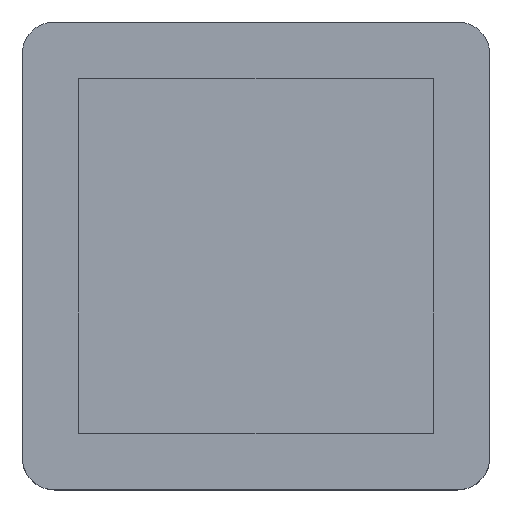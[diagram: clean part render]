
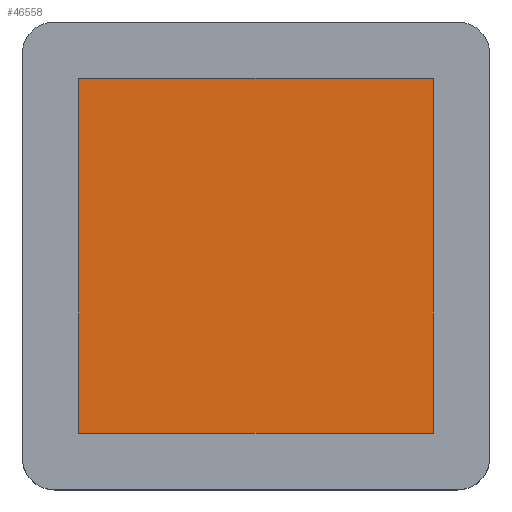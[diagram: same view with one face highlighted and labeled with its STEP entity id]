
A CAD part, top view. The second image highlights one B-rep face of the part: STEP entity #46558.
In plain terms, the highlighted free-form (B-spline) face has degree [1, 1] with [2, 2] control points.
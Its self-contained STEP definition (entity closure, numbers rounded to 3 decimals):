
#46280 = VERTEX_POINT('',#46281);
#46281 = CARTESIAN_POINT('',(-25.,-25.,17.4));
#46287 = B_SPLINE_SURFACE_WITH_KNOTS('',1,1,(
    (#46288,#46289)
    ,(#46290,#46291
    )),.UNSPECIFIED.,.F.,.F.,.F.,(2,2),(2,2),(0.,2.),(-50.,0.),
  .PIECEWISE_BEZIER_KNOTS.);
#46288 = CARTESIAN_POINT('',(-25.,25.,15.4));
#46289 = CARTESIAN_POINT('',(-25.,-25.,15.4));
#46290 = CARTESIAN_POINT('',(-25.,25.,17.4));
#46291 = CARTESIAN_POINT('',(-25.,-25.,17.4));
#46298 = B_SPLINE_SURFACE_WITH_KNOTS('',1,1,(
    (#46299,#46300)
    ,(#46301,#46302
    )),.UNSPECIFIED.,.F.,.F.,.F.,(2,2),(2,2),(0.,2.),(0.,50.),
  .PIECEWISE_BEZIER_KNOTS.);
#46299 = CARTESIAN_POINT('',(-25.,-25.,15.4));
#46300 = CARTESIAN_POINT('',(25.,-25.,15.4));
#46301 = CARTESIAN_POINT('',(-25.,-25.,17.4));
#46302 = CARTESIAN_POINT('',(25.,-25.,17.4));
#46335 = VERTEX_POINT('',#46336);
#46336 = CARTESIAN_POINT('',(-25.,25.,17.4));
#46348 = B_SPLINE_SURFACE_WITH_KNOTS('',1,1,(
    (#46349,#46350)
    ,(#46351,#46352
    )),.UNSPECIFIED.,.F.,.F.,.F.,(2,2),(2,2),(0.,2.),(0.,50.),
  .PIECEWISE_BEZIER_KNOTS.);
#46349 = CARTESIAN_POINT('',(-25.,25.,15.4));
#46350 = CARTESIAN_POINT('',(25.,25.,15.4));
#46351 = CARTESIAN_POINT('',(-25.,25.,17.4));
#46352 = CARTESIAN_POINT('',(25.,25.,17.4));
#46359 = EDGE_CURVE('',#46280,#46335,#46360,.T.);
#46360 = SURFACE_CURVE('',#46361,(#46364,#46370),.PCURVE_S1.);
#46361 = B_SPLINE_CURVE_WITH_KNOTS('',1,(#46362,#46363),.UNSPECIFIED.,
  .F.,.F.,(2,2),(0.,50.),.PIECEWISE_BEZIER_KNOTS.);
#46362 = CARTESIAN_POINT('',(-25.,-25.,17.4));
#46363 = CARTESIAN_POINT('',(-25.,25.,17.4));
#46364 = PCURVE('',#46287,#46365);
#46365 = DEFINITIONAL_REPRESENTATION('',(#46366),#46369);
#46366 = B_SPLINE_CURVE_WITH_KNOTS('',1,(#46367,#46368),.UNSPECIFIED.,
  .F.,.F.,(2,2),(0.,50.),.PIECEWISE_BEZIER_KNOTS.);
#46367 = CARTESIAN_POINT('',(2.,0.));
#46368 = CARTESIAN_POINT('',(2.,-50.));
#46369 = ( GEOMETRIC_REPRESENTATION_CONTEXT(2) 
PARAMETRIC_REPRESENTATION_CONTEXT() REPRESENTATION_CONTEXT('2D SPACE',''
  ) );
#46370 = PCURVE('',#46371,#46376);
#46371 = B_SPLINE_SURFACE_WITH_KNOTS('',1,1,(
    (#46372,#46373)
    ,(#46374,#46375
    )),.UNSPECIFIED.,.F.,.F.,.F.,(2,2),(2,2),(0.,50.),(0.,50.),
  .PIECEWISE_BEZIER_KNOTS.);
#46372 = CARTESIAN_POINT('',(-25.,-25.,17.4));
#46373 = CARTESIAN_POINT('',(-25.,25.,17.4));
#46374 = CARTESIAN_POINT('',(25.,-25.,17.4));
#46375 = CARTESIAN_POINT('',(25.,25.,17.4));
#46376 = DEFINITIONAL_REPRESENTATION('',(#46377),#46380);
#46377 = B_SPLINE_CURVE_WITH_KNOTS('',1,(#46378,#46379),.UNSPECIFIED.,
  .F.,.F.,(2,2),(0.,50.),.PIECEWISE_BEZIER_KNOTS.);
#46378 = CARTESIAN_POINT('',(0.,0.));
#46379 = CARTESIAN_POINT('',(0.,50.));
#46380 = ( GEOMETRIC_REPRESENTATION_CONTEXT(2) 
PARAMETRIC_REPRESENTATION_CONTEXT() REPRESENTATION_CONTEXT('2D SPACE',''
  ) );
#46388 = VERTEX_POINT('',#46389);
#46389 = CARTESIAN_POINT('',(25.,-25.,17.4));
#46395 = B_SPLINE_SURFACE_WITH_KNOTS('',1,1,(
    (#46396,#46397)
    ,(#46398,#46399
    )),.UNSPECIFIED.,.F.,.F.,.F.,(2,2),(2,2),(0.,2.),(-50.,0.),
  .PIECEWISE_BEZIER_KNOTS.);
#46396 = CARTESIAN_POINT('',(25.,25.,15.4));
#46397 = CARTESIAN_POINT('',(25.,-25.,15.4));
#46398 = CARTESIAN_POINT('',(25.,25.,17.4));
#46399 = CARTESIAN_POINT('',(25.,-25.,17.4));
#46433 = VERTEX_POINT('',#46434);
#46434 = CARTESIAN_POINT('',(25.,25.,17.4));
#46452 = EDGE_CURVE('',#46388,#46433,#46453,.T.);
#46453 = SURFACE_CURVE('',#46454,(#46457,#46463),.PCURVE_S1.);
#46454 = B_SPLINE_CURVE_WITH_KNOTS('',1,(#46455,#46456),.UNSPECIFIED.,
  .F.,.F.,(2,2),(0.,50.),.PIECEWISE_BEZIER_KNOTS.);
#46455 = CARTESIAN_POINT('',(25.,-25.,17.4));
#46456 = CARTESIAN_POINT('',(25.,25.,17.4));
#46457 = PCURVE('',#46395,#46458);
#46458 = DEFINITIONAL_REPRESENTATION('',(#46459),#46462);
#46459 = B_SPLINE_CURVE_WITH_KNOTS('',1,(#46460,#46461),.UNSPECIFIED.,
  .F.,.F.,(2,2),(0.,50.),.PIECEWISE_BEZIER_KNOTS.);
#46460 = CARTESIAN_POINT('',(2.,0.));
#46461 = CARTESIAN_POINT('',(2.,-50.));
#46462 = ( GEOMETRIC_REPRESENTATION_CONTEXT(2) 
PARAMETRIC_REPRESENTATION_CONTEXT() REPRESENTATION_CONTEXT('2D SPACE',''
  ) );
#46463 = PCURVE('',#46371,#46464);
#46464 = DEFINITIONAL_REPRESENTATION('',(#46465),#46468);
#46465 = B_SPLINE_CURVE_WITH_KNOTS('',1,(#46466,#46467),.UNSPECIFIED.,
  .F.,.F.,(2,2),(0.,50.),.PIECEWISE_BEZIER_KNOTS.);
#46466 = CARTESIAN_POINT('',(50.,0.));
#46467 = CARTESIAN_POINT('',(50.,50.));
#46468 = ( GEOMETRIC_REPRESENTATION_CONTEXT(2) 
PARAMETRIC_REPRESENTATION_CONTEXT() REPRESENTATION_CONTEXT('2D SPACE',''
  ) );
#46492 = EDGE_CURVE('',#46280,#46388,#46493,.T.);
#46493 = SURFACE_CURVE('',#46494,(#46497,#46503),.PCURVE_S1.);
#46494 = B_SPLINE_CURVE_WITH_KNOTS('',1,(#46495,#46496),.UNSPECIFIED.,
  .F.,.F.,(2,2),(0.,50.),.PIECEWISE_BEZIER_KNOTS.);
#46495 = CARTESIAN_POINT('',(-25.,-25.,17.4));
#46496 = CARTESIAN_POINT('',(25.,-25.,17.4));
#46497 = PCURVE('',#46298,#46498);
#46498 = DEFINITIONAL_REPRESENTATION('',(#46499),#46502);
#46499 = B_SPLINE_CURVE_WITH_KNOTS('',1,(#46500,#46501),.UNSPECIFIED.,
  .F.,.F.,(2,2),(0.,50.),.PIECEWISE_BEZIER_KNOTS.);
#46500 = CARTESIAN_POINT('',(2.,0.));
#46501 = CARTESIAN_POINT('',(2.,50.));
#46502 = ( GEOMETRIC_REPRESENTATION_CONTEXT(2) 
PARAMETRIC_REPRESENTATION_CONTEXT() REPRESENTATION_CONTEXT('2D SPACE',''
  ) );
#46503 = PCURVE('',#46371,#46504);
#46504 = DEFINITIONAL_REPRESENTATION('',(#46505),#46508);
#46505 = B_SPLINE_CURVE_WITH_KNOTS('',1,(#46506,#46507),.UNSPECIFIED.,
  .F.,.F.,(2,2),(0.,50.),.PIECEWISE_BEZIER_KNOTS.);
#46506 = CARTESIAN_POINT('',(0.,0.));
#46507 = CARTESIAN_POINT('',(50.,0.));
#46508 = ( GEOMETRIC_REPRESENTATION_CONTEXT(2) 
PARAMETRIC_REPRESENTATION_CONTEXT() REPRESENTATION_CONTEXT('2D SPACE',''
  ) );
#46533 = EDGE_CURVE('',#46335,#46433,#46534,.T.);
#46534 = SURFACE_CURVE('',#46535,(#46538,#46544),.PCURVE_S1.);
#46535 = B_SPLINE_CURVE_WITH_KNOTS('',1,(#46536,#46537),.UNSPECIFIED.,
  .F.,.F.,(2,2),(0.,50.),.PIECEWISE_BEZIER_KNOTS.);
#46536 = CARTESIAN_POINT('',(-25.,25.,17.4));
#46537 = CARTESIAN_POINT('',(25.,25.,17.4));
#46538 = PCURVE('',#46348,#46539);
#46539 = DEFINITIONAL_REPRESENTATION('',(#46540),#46543);
#46540 = B_SPLINE_CURVE_WITH_KNOTS('',1,(#46541,#46542),.UNSPECIFIED.,
  .F.,.F.,(2,2),(0.,50.),.PIECEWISE_BEZIER_KNOTS.);
#46541 = CARTESIAN_POINT('',(2.,0.));
#46542 = CARTESIAN_POINT('',(2.,50.));
#46543 = ( GEOMETRIC_REPRESENTATION_CONTEXT(2) 
PARAMETRIC_REPRESENTATION_CONTEXT() REPRESENTATION_CONTEXT('2D SPACE',''
  ) );
#46544 = PCURVE('',#46371,#46545);
#46545 = DEFINITIONAL_REPRESENTATION('',(#46546),#46549);
#46546 = B_SPLINE_CURVE_WITH_KNOTS('',1,(#46547,#46548),.UNSPECIFIED.,
  .F.,.F.,(2,2),(0.,50.),.PIECEWISE_BEZIER_KNOTS.);
#46547 = CARTESIAN_POINT('',(0.,50.));
#46548 = CARTESIAN_POINT('',(50.,50.));
#46549 = ( GEOMETRIC_REPRESENTATION_CONTEXT(2) 
PARAMETRIC_REPRESENTATION_CONTEXT() REPRESENTATION_CONTEXT('2D SPACE',''
  ) );
#46558 = ADVANCED_FACE('',(#46559),#46371,.T.);
#46559 = FACE_BOUND('',#46560,.T.);
#46560 = EDGE_LOOP('',(#46561,#46562,#46563,#46564));
#46561 = ORIENTED_EDGE('',*,*,#46359,.F.);
#46562 = ORIENTED_EDGE('',*,*,#46492,.T.);
#46563 = ORIENTED_EDGE('',*,*,#46452,.T.);
#46564 = ORIENTED_EDGE('',*,*,#46533,.F.);
